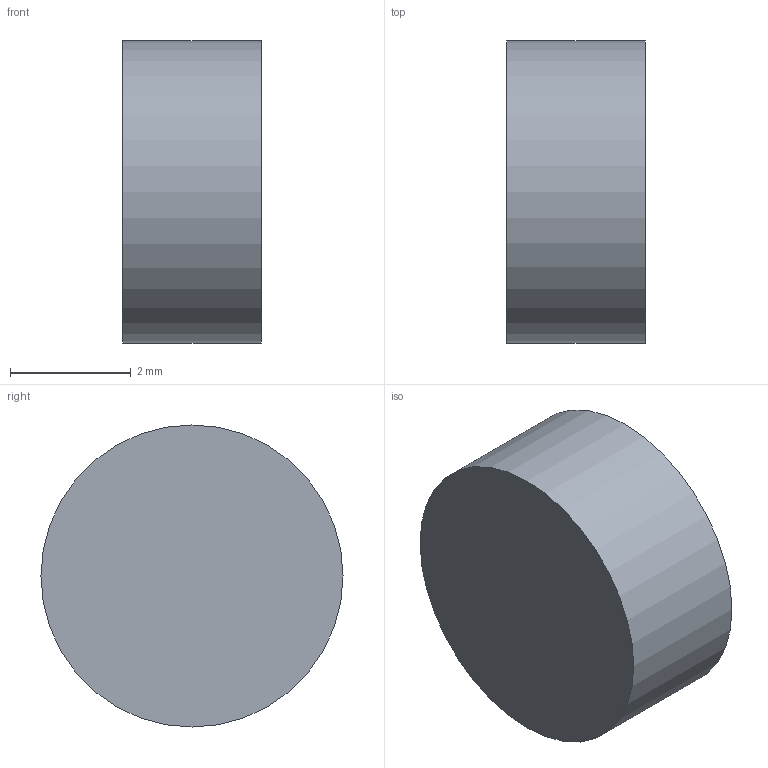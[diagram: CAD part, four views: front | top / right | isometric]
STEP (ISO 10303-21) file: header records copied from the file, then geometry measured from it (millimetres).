
FILE_DESCRIPTION(('Open CASCADE Model'),'2;1');
FILE_NAME('vol_plus_pad_silicone','2026-09-08T13:43:18',('Author'),( 'Open CASCADE'),'Open CASCADE STEP processor 7.8','build123d', 'Unknown');
FILE_SCHEMA(('AUTOMOTIVE_DESIGN { 1 0 10303 214 1 1 1 1 }'));
Length unit declared in the file: millimetre
Products named in the file (3): =>[0:1:1:2]; vol_plus_pad_silicone; SOLID
Assembly tree (2 placements, depth 3):
  =>[0:1:1:2]
    vol_plus_pad_silicone
      SOLID
Bounding box: 2.3 x 5 x 5 mm (x, y, z)
Volume: 45.2 mm3; surface area: 75.4 mm2
Topology: 1 solids, 1 shells, 3 faces, 3 edges, 2 vertices
Faces by surface type: plane 2, cylinder 1
Full cylindrical faces by diameter (mm): 5 x1
Entity records: 144 total; most frequent: DIRECTION 23, CARTESIAN_POINT 17, AXIS2_PLACEMENT_3D 8, ORIENTED_EDGE 6, PCURVE 6, DEFINITIONAL_REPRESENTATION 6, PRODUCT_DEFINITION_SHAPE 5, LINE 5
